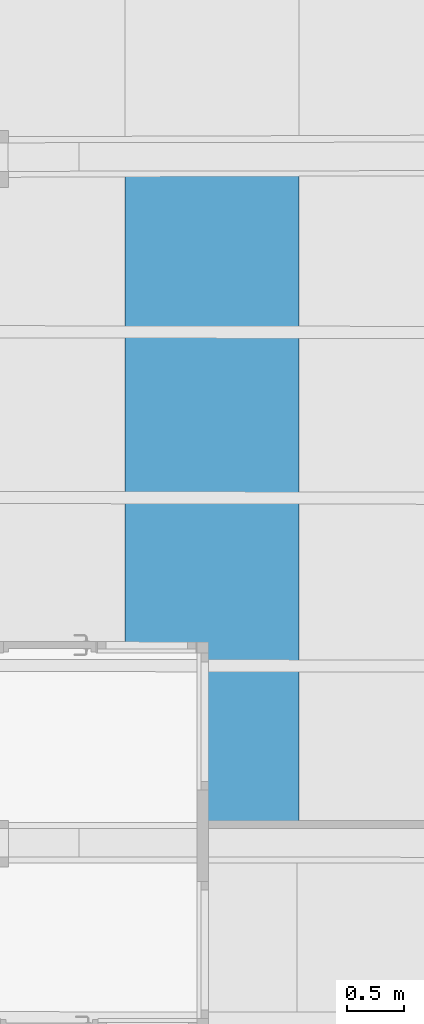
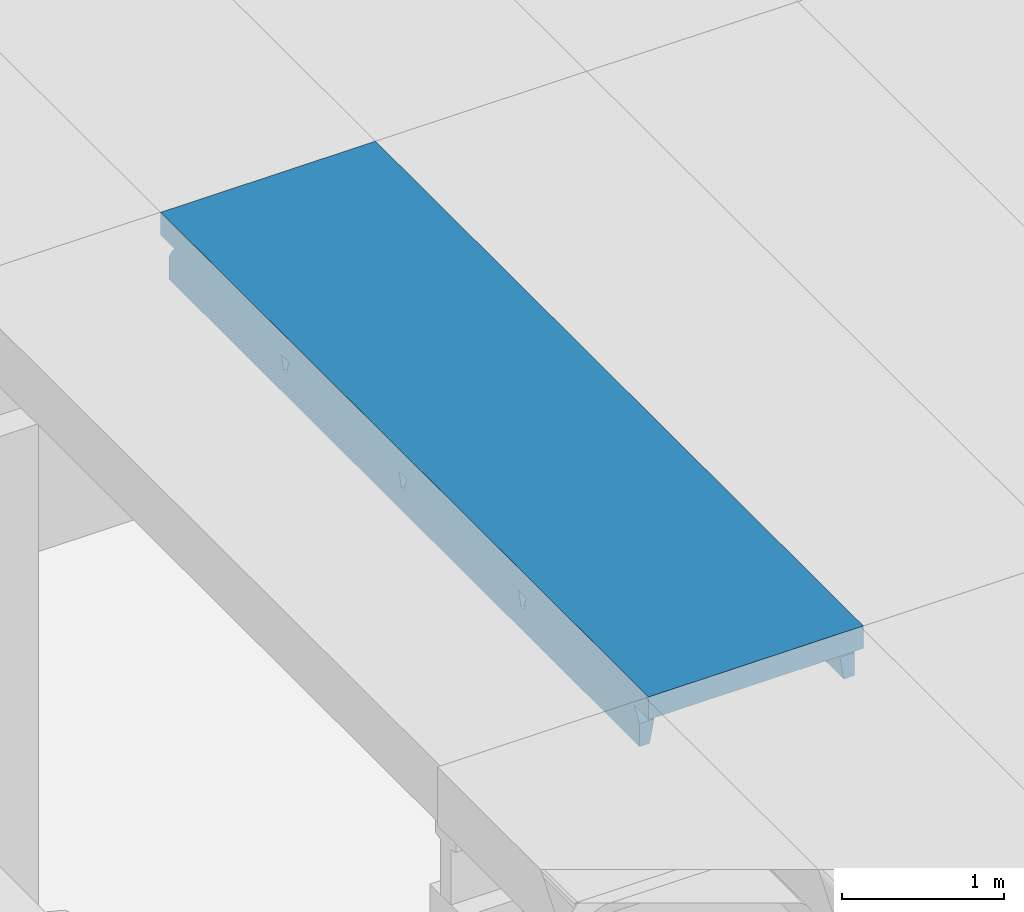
# One storey, part 47 of 301: 1 beam.
"""IFC2X3 building model written with IfcOpenShell, lengths in millimetres."""

from ifc_helpers import new_model, entity, si_unit, converted_unit, derived_unit, money_unit, direction, frame, origin_with_axes, place, context, subcontext, project, spatial, faceted_brep, material, type_object, element, save


model = new_model("IFC2X3")

# Units and contexts
model_context = context("Model", 3, precision=0.01, world=origin_with_axes(), true_north=direction((0.0, 1.0)))
body_context = subcontext(model_context, "Body", "Model", "MODEL_VIEW")
ifc_project = project(units=[si_unit("LENGTHUNIT", "METRE", prefix="MILLI"), si_unit("AREAUNIT", "SQUARE_METRE"), si_unit("VOLUMEUNIT", "CUBIC_METRE"), converted_unit("PLANEANGLEUNIT", "DEGREE", entity("IfcPlaneAngleMeasure", 0.0174532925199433), si_unit("PLANEANGLEUNIT", "RADIAN"), dimensions=[0, 0, 0, 0, 0, 0, 0]), money_unit("EUR"), converted_unit("TIMEUNIT", "Year", entity("IfcTimeMeasure", 31557600.0), si_unit("TIMEUNIT", "SECOND"), dimensions=[0, 0, 1, 0, 0, 0, 0]), si_unit("MASSUNIT", "GRAM", prefix="KILO"), si_unit("THERMODYNAMICTEMPERATUREUNIT", "DEGREE_CELSIUS"), si_unit("LUMINOUSINTENSITYUNIT", "LUMEN"), si_unit("ENERGYUNIT", "JOULE", prefix="MEGA"), derived_unit("THERMALCONDUCTANCEUNIT", [(si_unit("POWERUNIT", "WATT"), 1), (si_unit("LENGTHUNIT", "METRE"), -1), (si_unit("THERMODYNAMICTEMPERATUREUNIT", "KELVIN"), -1)]), derived_unit("SPECIFICHEATCAPACITYUNIT", [(si_unit("ENERGYUNIT", "JOULE"), 1), (si_unit("MASSUNIT", "GRAM", prefix="KILO"), -1), (si_unit("THERMODYNAMICTEMPERATUREUNIT", "KELVIN"), -1)]), derived_unit("MASSDENSITYUNIT", [(si_unit("MASSUNIT", "GRAM", prefix="KILO"), 1), (si_unit("VOLUMEUNIT", "CUBIC_METRE"), -1)])], contexts=[model_context])

# Site, building, storey
site_placement = place(None, frame((0.0, 0.0, 8650.0), z_axis=(0.0, 0.0, 1.0), x_axis=(1.0, 0.0, 0.0)))
site = spatial("IfcSite", under=ifc_project, at=site_placement, Name="43301:001:0844", CompositionType="ELEMENT")
building_placement = place(site_placement, origin_with_axes())
building = spatial("IfcBuilding", under=site, at=building_placement, Name="Kuressaare Ametikooli tuulikute mehaanikute õppekorpus", CompositionType="ELEMENT")
storey_placement = place(building_placement, origin_with_axes())
storey = spatial("IfcBuildingStorey", under=building, at=storey_placement, Name="1.korrus", CompositionType="ELEMENT", Elevation=0.0)

# Beam
ifc_material = material(Name="GENEERILINE - KONSTRUKTRIOON")
beam_type = type_object("IfcBeamType", Name="Precast Double Tee 2 1527 x 440", PredefinedType="NOTDEFINED")
beam_placement = place(storey_placement, frame((90462.31710030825, 56098.23076256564, 7100.0), z_axis=(0.0, 0.0, 1.0), x_axis=(-1.0, 0.0, 0.0)))
element("IfcBeam", 1, at=beam_placement, inside=storey, type_object=beam_type, material=ifc_material, context=body_context, shape_type="Brep", body=[
    faceted_brep([(-763.5606534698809, 170.904860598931, -169.8235046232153), (-763.5606534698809, 3.55785007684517, -169.8235046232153), (-763.5606534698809, 3.55785007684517, 0.0), (-763.5606534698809, 6009.664014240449, 0.0), (-763.5606534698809, 6009.664014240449, -169.8234995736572), (-763.5606534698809, 5831.730547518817, -169.8234995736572), (-763.5606534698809, 5842.693095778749, -181.3563575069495), (-763.5606534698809, 5874.365573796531, -222.3718083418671), (-763.5606534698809, 5899.957564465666, -267.4324680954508), (-763.5606534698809, 5899.958087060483, -440.0001340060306), (-763.5606534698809, 102.6768814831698, -440.0001340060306), (-763.5606534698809, 102.6774040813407, -267.4324731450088), (-763.5606534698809, 128.2695596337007, -222.3718133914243), (-763.5606534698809, 159.9422417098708, -181.3563625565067), (-763.5606534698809, 1496.791584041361, -184.1935020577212), (-763.5606534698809, 1517.532531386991, -271.7709778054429), (-763.5606534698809, 1557.532585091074, -271.7709778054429), (-763.5606534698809, 1578.272570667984, -184.1936973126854), (-763.5606534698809, 1582.84719016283, -175.3978342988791), (-763.5606534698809, 1591.046047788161, -169.8234995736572), (-763.5606534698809, 1484.01815316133, -169.8234995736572), (-763.5606534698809, 1492.216944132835, -175.3977593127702), (-763.5606534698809, 2968.644794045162, -271.7709778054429), (-763.5606534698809, 3008.644847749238, -271.7709778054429), (-763.5606534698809, 3029.384833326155, -184.1936973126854), (-763.5606534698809, 3033.959452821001, -175.3978342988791), (-763.5606534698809, 3042.158310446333, -169.8234995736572), (-763.5606534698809, 2935.130415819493, -169.8234995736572), (-763.5606534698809, 2943.329206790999, -175.3977593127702), (-763.5606534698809, 2947.903846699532, -184.1935020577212), (-763.5606534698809, 4479.504904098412, -271.7709778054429), (-763.5606534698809, 4500.244889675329, -184.1936973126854), (-763.5606534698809, 4504.819509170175, -175.3978342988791), (-763.5606534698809, 4513.0183667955, -169.8234995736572), (-763.5606534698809, 4405.990472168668, -169.8234995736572), (-763.5606534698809, 4414.189263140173, -175.3977593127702), (-763.5606534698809, 4418.763903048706, -184.1935020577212), (-763.5606534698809, 4439.504850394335, -271.7709778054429), (-594.8169498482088, 171.5124204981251, -169.8235046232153), (-594.8169498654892, 3.55785007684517, -169.8235046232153), (763.5606534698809, 3.55785007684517, -169.8235046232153), (763.5606534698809, 3.55785007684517, 0.0), (597.3692682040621, 3.55785007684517, -169.8234995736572), (600.4311136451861, 3.55785007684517, -169.7351493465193), (600.8844705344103, 3.55785007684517, -169.8235046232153), (763.5606534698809, 6009.664014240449, 0.0), (763.5606534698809, 6009.664014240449, -169.8234995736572), (600.8844446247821, 6009.664014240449, -169.8234995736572), (600.4311136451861, 6009.664014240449, -169.7351493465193), (597.3692682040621, 6009.664014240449, -169.8234995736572), (-594.8169498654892, 6009.664014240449, -169.8234995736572), (-594.816949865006, 5831.683435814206, -169.8234995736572), (-609.6555344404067, 5833.500577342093, -171.7308167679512), (-623.5131529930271, 5838.863711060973, -177.3688890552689), (-628.81353045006, 5842.655475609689, -181.3563575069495), (-635.4684781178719, 5846.523403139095, -186.3628677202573), (-646.4799073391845, 5858.225442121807, -201.5128762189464), (-651.8762025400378, 5872.076294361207, -219.4476003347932), (-652.344605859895, 5874.334523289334, -222.3718083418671), (-659.5624790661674, 5899.92852912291, -267.4324680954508), (-687.2045850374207, 5899.93676914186, -440.0001340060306), (-687.2045850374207, 102.9518006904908, -440.0001340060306), (-659.5624798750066, 103.0518483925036, -267.4324731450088), (-652.3446066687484, 128.6699918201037, -222.3718133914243), (-651.8762025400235, 130.9297949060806, -219.4476003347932), (-646.4799073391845, 144.7986590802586, -201.5128762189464), (-635.4684781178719, 156.5373456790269, -186.3628677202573), (-628.8135371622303, 160.4273972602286, -181.3563625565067), (-623.5131529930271, 164.2367951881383, -177.3688890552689), (-609.6555344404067, 169.6459887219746, -171.7308167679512), (-635.4684781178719, 1497.095454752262, -186.3628677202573), (-646.4799073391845, 1500.701470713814, -201.5128762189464), (-651.8762025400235, 1504.957788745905, -219.4476003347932), (-660.2574270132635, 1517.363252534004, -271.7709778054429), (-632.5848297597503, 1496.5769592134, -184.1935020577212), (-660.2574270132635, 1557.363306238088, -271.7709778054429), (-651.8762025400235, 1569.740755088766, -219.4476003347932), (-646.4799073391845, 1573.979200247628, -201.5128762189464), (-635.4684781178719, 1577.548969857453, -186.3628677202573), (-632.5850893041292, 1578.057946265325, -184.1936973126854), (-623.5131529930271, 1581.592578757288, -177.3688890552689), (-618.6685671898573, 1582.609761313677, -175.3978342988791), (-609.6555344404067, 1587.988524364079, -171.7308167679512), (-594.8169498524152, 1590.769534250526, -169.8234995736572), (-594.8169498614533, 1483.741639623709, -169.8234995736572), (-609.6555344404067, 1486.571295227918, -171.7308167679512), (-618.6683828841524, 1491.979514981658, -175.3977593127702), (-623.5131529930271, 1493.012632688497, -177.3688890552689), (-660.2574270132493, 2968.475515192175, -271.7709778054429), (-660.2574270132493, 3008.475568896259, -271.7709778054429), (-646.4799073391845, 3025.091462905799, -201.5128762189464), (-635.4684781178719, 3028.661232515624, -186.3628677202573), (-632.5850893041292, 3029.170208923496, -184.1936973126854), (-651.8762025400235, 3020.853017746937, -219.4476003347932), (-623.5131529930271, 3032.704841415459, -177.3688890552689), (-618.6685671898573, 3033.722023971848, -175.3978342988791), (-609.6555344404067, 3039.100787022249, -171.7308167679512), (-594.8169498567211, 3041.881796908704, -169.8234995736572), (-594.8169498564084, 2934.853902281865, -169.8234995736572), (-609.6555344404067, 2937.683557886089, -171.7308167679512), (-618.6683828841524, 2943.091777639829, -175.3977593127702), (-623.5131529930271, 2944.124895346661, -177.3688890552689), (-632.5848297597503, 2947.68922187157, -184.1935020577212), (-646.4799073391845, 2951.813733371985, -201.5128762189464), (-651.8762025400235, 2956.070051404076, -219.4476003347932), (-635.4684781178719, 2948.207717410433, -186.3628677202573), (-635.4684781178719, 4499.521288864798, -186.3628677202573), (-632.5850893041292, 4500.03026527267, -184.1936973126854), (-660.2574270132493, 4479.335625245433, -271.7709778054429), (-651.8762025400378, 4491.713074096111, -219.4476003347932), (-646.4799073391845, 4495.951519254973, -201.5128762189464), (-623.5131529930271, 4503.564897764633, -177.3688890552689), (-618.6685671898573, 4504.582080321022, -175.3978342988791), (-609.6555344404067, 4509.960843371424, -171.7308167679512), (-594.8169498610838, 4512.741853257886, -169.8234995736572), (-594.8169498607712, 4405.713958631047, -169.8234995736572), (-609.6555344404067, 4408.543614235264, -171.7308167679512), (-618.6683828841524, 4413.951833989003, -175.3977593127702), (-623.5131529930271, 4414.984951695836, -177.3688890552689), (-632.5848297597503, 4418.549278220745, -184.1935020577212), (-651.8762025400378, 4426.93010775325, -219.4476003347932), (-660.2574270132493, 4439.335571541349, -271.7709778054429), (-635.4684781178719, 4419.067773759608, -186.3628677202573), (-646.4799073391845, 4422.673789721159, -201.5128762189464), (763.5606534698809, 176.4032445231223, -169.8235046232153), (763.5606534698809, 165.4406256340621, -181.3563625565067), (763.5606534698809, 133.767943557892, -222.3718133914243), (763.5606534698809, 108.1757880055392, -267.4324731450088), (763.5606534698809, 108.1752654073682, -440.0001340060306), (763.5606534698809, 5899.531728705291, -440.0001340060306), (763.5606534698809, 5899.531206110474, -267.4324680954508), (763.5606534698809, 5873.93921544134, -222.3718083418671), (763.5606534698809, 5842.266737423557, -181.3563575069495), (763.5606534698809, 5831.304189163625, -169.8234995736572), (763.5606534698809, 1580.344757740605, -175.3978342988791), (763.5606534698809, 1575.770138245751, -184.1936973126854), (763.5606534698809, 1555.030152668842, -271.7709778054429), (763.5606534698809, 1515.030098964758, -271.7709778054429), (763.5606534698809, 1494.289151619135, -184.1935020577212), (763.5606534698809, 1489.714511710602, -175.3977593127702), (763.5606534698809, 1481.515720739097, -169.8234995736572), (763.5606534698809, 1588.543615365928, -169.8234995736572), (763.5606534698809, 3026.882400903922, -184.1936973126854), (763.5606534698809, 3006.142415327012, -271.7709778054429), (763.5606534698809, 2966.142361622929, -271.7709778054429), (763.5606534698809, 2945.401414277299, -184.1935020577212), (763.5606534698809, 2940.826774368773, -175.3977593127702), (763.5606534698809, 2932.627983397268, -169.8234995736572), (763.5606534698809, 3039.655878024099, -169.8234995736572), (763.5606534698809, 3031.457020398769, -175.3978342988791), (763.5606534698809, 4477.002471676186, -271.7709778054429), (763.5606534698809, 4437.002417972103, -271.7709778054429), (763.5606534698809, 4416.261470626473, -184.1935020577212), (763.5606534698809, 4411.686830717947, -175.3977593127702), (763.5606534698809, 4403.488039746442, -169.8234995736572), (763.5606534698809, 4510.515934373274, -169.8234995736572), (763.5606534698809, 4502.317076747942, -175.3978342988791), (763.5606534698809, 4497.742457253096, -184.1936973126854), (600.8844705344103, 175.8175306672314, -169.8235046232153), (600.8844446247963, 5831.34960687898, -169.8234995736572), (619.5598957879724, 5834.804088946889, -173.4631810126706), (619.5598957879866, 4505.398576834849, -173.4631810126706), (600.8844446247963, 4510.782505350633, -169.8234995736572), (600.8844446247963, 4403.754610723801, -169.8234995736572), (619.5598957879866, 4409.077362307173, -173.4631810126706), (619.5598957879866, 3034.538520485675, -173.4631810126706), (600.8844446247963, 3039.922449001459, -169.8234995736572), (600.8844446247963, 2932.894554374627, -169.8234995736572), (619.5598957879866, 2938.217305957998, -173.4631810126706), (619.5598957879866, 1583.426257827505, -173.4631810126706), (600.8844446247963, 1588.810186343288, -169.8234995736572), (600.8844446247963, 1481.782291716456, -169.8234995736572), (619.5598957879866, 1487.105043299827, -173.4631810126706), (619.5598957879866, 172.4250577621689, -173.4631810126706), (631.5988124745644, 164.9654984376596, -181.3563625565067), (635.8579307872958, 162.8244710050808, -184.148806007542), (644.7992800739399, 153.6496821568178, -196.0716523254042), (649.7230638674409, 142.8052916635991, -210.1378651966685), (651.9888675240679, 133.3662305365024, -222.3718133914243), (660.3343832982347, 107.8041229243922, -267.4324731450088), (692.2949924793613, 107.9186741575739, -440.0001340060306), (692.2949924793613, 5899.551625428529, -440.0001340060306), (660.3343823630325, 5899.560025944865, -267.4324680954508), (651.9888665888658, 5873.970365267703, -222.3718083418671), (649.7230638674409, 5864.523843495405, -210.1378651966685), (644.7992800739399, 5853.663169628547, -196.0716523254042), (635.8579307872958, 5844.458743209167, -184.148806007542), (631.5988047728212, 5842.303579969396, -181.3563575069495), (635.8579307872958, 1576.002746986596, -184.148806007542), (635.8915963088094, 1575.979344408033, -184.1936973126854), (622.5106868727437, 1580.575890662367, -175.3978342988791), (649.7230638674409, 1569.812601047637, -210.1378651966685), (661.1379014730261, 1555.197988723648, -271.7709778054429), (644.7992800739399, 1573.15181938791, -196.0716523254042), (661.1379014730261, 1515.197935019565, -271.7709778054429), (649.7230638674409, 1500.620088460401, -210.1378651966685), (644.7992800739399, 1497.296859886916, -196.0716523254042), (635.8914498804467, 1494.498358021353, -184.1935020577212), (622.510572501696, 1489.945644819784, -175.3977593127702), (635.8579307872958, 1494.475166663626, -184.148806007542), (661.1379014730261, 3006.310251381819, -271.7709778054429), (635.8915963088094, 3027.091607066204, -184.1936973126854), (644.7992800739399, 3024.264082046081, -196.0716523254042), (649.7230638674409, 3020.924863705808, -210.1378651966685), (661.1379014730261, 2966.310197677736, -271.7709778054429), (649.7230638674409, 2951.732351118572, -210.1378651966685), (644.7992800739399, 2948.409122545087, -196.0716523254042), (635.8914498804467, 2945.610620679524, -184.1935020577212), (635.8579307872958, 2945.587429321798, -184.148806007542), (622.5105725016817, 2941.057907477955, -175.3977593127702), (622.5106868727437, 3031.688153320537, -175.3978342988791), (635.8579307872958, 3027.115009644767, -184.148806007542), (661.1379014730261, 4477.170307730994, -271.7709778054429), (661.1379014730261, 4437.17025402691, -271.7709778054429), (649.7230638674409, 4422.592407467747, -210.1378651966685), (644.7992800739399, 4419.269178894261, -196.0716523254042), (635.8914498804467, 4416.470677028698, -184.1935020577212), (635.8579307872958, 4416.447485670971, -184.148806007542), (622.5105725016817, 4411.917963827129, -175.3977593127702), (622.5106868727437, 4502.548209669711, -175.3978342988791), (635.8579307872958, 4497.975065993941, -184.148806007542), (635.8915963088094, 4497.951663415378, -184.1936973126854), (644.7992800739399, 4495.124138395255, -196.0716523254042), (649.7230638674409, 4491.784920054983, -210.1378651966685)], [[[0, 1, 2, 3, 4, 5, 6, 7, 8, 9, 10, 11, 12, 13], [14, 15, 16, 17, 18, 19, 20, 21], [22, 23, 24, 25, 26, 27, 28, 29], [30, 31, 32, 33, 34, 35, 36, 37]], [[38, 39, 1, 0]], [[40, 41, 2, 1, 39, 42, 43, 44]], [[3, 2, 41, 45]], [[45, 46, 47, 48, 49, 50, 4, 3]], [[51, 5, 4, 50]], [[5, 51, 52, 53, 54, 6]], [[54, 55, 56, 57, 58, 7, 6]], [[59, 8, 7, 58]], [[60, 9, 8, 59]], [[10, 9, 60, 61]], [[61, 62, 11, 10]], [[62, 63, 12, 11]], [[12, 63, 64, 65, 66, 67, 13]], [[0, 13, 67, 68, 69, 38]], [[70, 71, 72, 73, 15, 14, 74]], [[16, 15, 73, 75]], [[76, 77, 78, 79, 17, 16, 75]], [[17, 79, 80, 81, 18]], [[18, 81, 82, 83, 19]], [[20, 19, 83, 84]], [[20, 84, 85, 86, 21]], [[21, 86, 87, 74, 14]], [[22, 88, 89, 23]], [[90, 91, 92, 24, 23, 89, 93]], [[92, 94, 95, 25, 24]], [[95, 96, 97, 26, 25]], [[26, 97, 98, 27]], [[98, 99, 100, 28, 27]], [[100, 101, 102, 29, 28]], [[103, 104, 88, 22, 29, 102, 105]], [[106, 107, 31, 30, 108, 109, 110]], [[111, 112, 32, 31, 107]], [[113, 114, 33, 32, 112]], [[114, 115, 34, 33]], [[116, 117, 35, 34, 115]], [[118, 119, 36, 35, 117]], [[120, 121, 37, 36, 119, 122, 123]], [[121, 108, 30, 37]], [[49, 42, 39, 38, 84, 83, 98, 97, 115, 114, 51, 50]], [[45, 41, 40, 124, 125, 126, 127, 128, 129, 130, 131, 132, 133, 46], [134, 135, 136, 137, 138, 139, 140, 141], [142, 143, 144, 145, 146, 147, 148, 149], [150, 151, 152, 153, 154, 155, 156, 157]], [[48, 43, 42, 49]], [[158, 44, 43, 48, 47, 159, 160, 161, 162, 163, 164, 165, 166, 167, 168, 169, 170, 171, 172, 173]], [[124, 40, 44, 158]], [[133, 159, 47, 46]], [[52, 51, 114, 113]], [[52, 113, 112, 111, 53]], [[53, 111, 107, 106, 55, 54]], [[56, 55, 106, 110]], [[57, 56, 110, 109]], [[58, 57, 109, 108, 121, 120, 93, 89, 88, 104, 76, 75, 73, 72, 64, 63, 62, 61, 60, 59]], [[72, 71, 65, 64]], [[71, 70, 66, 65]], [[68, 67, 66, 70, 74, 87]], [[85, 69, 68, 87, 86]], [[85, 84, 38, 69]], [[103, 77, 76, 104]], [[105, 78, 77, 103]], [[79, 78, 105, 102, 101, 80]], [[81, 80, 101, 100, 99, 82]], [[98, 83, 82, 99]], [[91, 90, 123, 122]], [[91, 122, 119, 118, 94, 92]], [[90, 93, 120, 123]], [[94, 118, 117, 116, 96, 95]], [[97, 96, 116, 115]], [[124, 158, 173, 174, 125]], [[175, 176, 177, 178, 126, 125, 174]], [[127, 126, 178, 179]], [[128, 127, 179, 180]], [[180, 181, 129, 128]], [[129, 181, 182, 130]], [[130, 182, 183, 131]], [[132, 131, 183, 184, 185, 186, 187]], [[160, 159, 133, 132, 187]], [[188, 189, 135, 134, 190]], [[191, 192, 136, 135, 189, 193]], [[192, 194, 137, 136]], [[138, 137, 194, 195, 196, 197]], [[198, 139, 138, 197, 199]], [[171, 140, 139, 198, 172]], [[171, 170, 141, 140]], [[169, 190, 134, 141, 170]], [[200, 143, 142, 201, 202, 203]], [[204, 144, 143, 200]], [[144, 204, 205, 206, 207, 145]], [[146, 145, 207, 208, 209]], [[147, 146, 209, 168, 167]], [[166, 148, 147, 167]], [[210, 149, 148, 166, 165]], [[201, 142, 149, 210, 211]], [[151, 150, 212, 213]], [[213, 214, 215, 216, 152, 151]], [[152, 216, 217, 218, 153]], [[153, 218, 164, 163, 154]], [[155, 154, 163, 162]], [[156, 155, 162, 161, 219]], [[157, 156, 219, 220, 221]], [[150, 157, 221, 222, 223, 212]], [[186, 220, 219, 161, 160, 187]], [[165, 164, 218, 217, 211, 210]], [[190, 169, 168, 209, 208, 188]], [[175, 174, 173, 172, 198, 199]], [[196, 176, 175, 199, 197]], [[196, 195, 177, 176]], [[214, 213, 212, 223, 184, 183, 182, 181, 180, 179, 178, 177, 195, 194, 192, 191, 205, 204, 200, 203]], [[185, 184, 223, 222]], [[185, 222, 221, 220, 186]], [[189, 188, 208, 207, 206, 193]], [[205, 191, 193, 206]], [[211, 217, 216, 215, 202, 201]], [[203, 202, 215, 214]]]),
])

save(model, "model.ifc")
